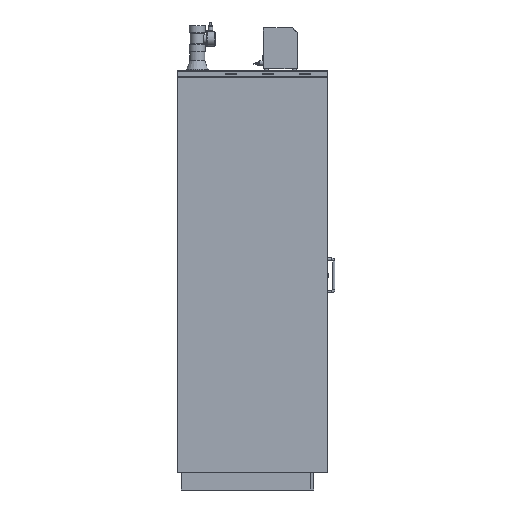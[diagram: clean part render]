
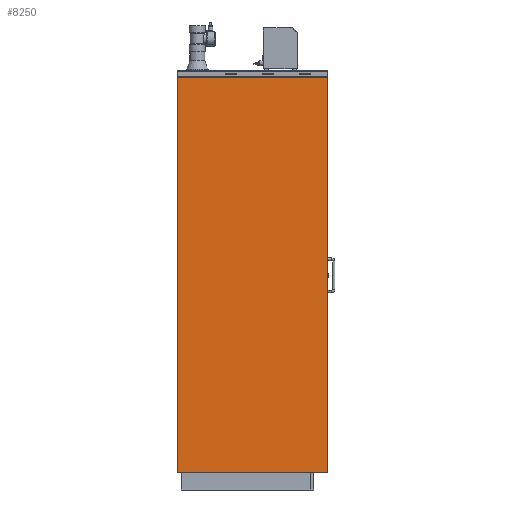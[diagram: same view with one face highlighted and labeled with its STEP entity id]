
A CAD part, left-side view. The second image highlights one B-rep face of the part: STEP entity #8250.
In plain terms, the highlighted planar face has unit normal (-1, 0, 0).
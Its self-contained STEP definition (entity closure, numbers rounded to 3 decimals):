
#1742=ORIENTED_EDGE('',*,*,#2649,.T.);
#1743=ORIENTED_EDGE('',*,*,#2650,.F.);
#1744=ORIENTED_EDGE('',*,*,#2651,.F.);
#1745=ORIENTED_EDGE('',*,*,#2601,.F.);
#1746=ORIENTED_EDGE('',*,*,#2632,.F.);
#1747=ORIENTED_EDGE('',*,*,#2652,.F.);
#1748=ORIENTED_EDGE('',*,*,#2637,.F.);
#1749=ORIENTED_EDGE('',*,*,#2593,.T.);
#2593=EDGE_CURVE('',#3164,#3165,#3767,.T.);
#2601=EDGE_CURVE('',#3172,#3173,#3775,.T.);
#2632=EDGE_CURVE('',#3197,#3172,#3804,.T.);
#2637=EDGE_CURVE('',#3164,#3200,#3809,.T.);
#2649=EDGE_CURVE('',#3165,#3206,#3821,.T.);
#2650=EDGE_CURVE('',#3207,#3206,#3822,.T.);
#2651=EDGE_CURVE('',#3173,#3207,#3823,.T.);
#2652=EDGE_CURVE('',#3200,#3197,#3824,.T.);
#3164=VERTEX_POINT('',#11971);
#3165=VERTEX_POINT('',#11972);
#3172=VERTEX_POINT('',#11988);
#3173=VERTEX_POINT('',#11989);
#3197=VERTEX_POINT('',#12055);
#3200=VERTEX_POINT('',#12062);
#3206=VERTEX_POINT('',#12087);
#3207=VERTEX_POINT('',#12091);
#3767=LINE('',#11970,#4384);
#3775=LINE('',#11987,#4392);
#3804=LINE('',#12054,#4421);
#3809=LINE('',#12064,#4426);
#3821=LINE('',#12088,#4438);
#3822=LINE('',#12090,#4439);
#3823=LINE('',#12092,#4440);
#3824=LINE('',#12093,#4441);
#4384=VECTOR('',#10206,1000.);
#4392=VECTOR('',#10216,1000.);
#4421=VECTOR('',#10271,1000.);
#4426=VECTOR('',#10278,1000.);
#4438=VECTOR('',#10302,1000.);
#4439=VECTOR('',#10305,1000.);
#4440=VECTOR('',#10306,1000.);
#4441=VECTOR('',#10307,1000.);
#4866=EDGE_LOOP('',(#1742,#1743,#1744,#1745,#1746,#1747,#1748,#1749));
#5329=FACE_BOUND('',#4866,.T.);
#5596=PLANE('',#8747);
#8250=ADVANCED_FACE('',(#5329),#5596,.F.);
#8747=AXIS2_PLACEMENT_3D('',#12089,#10303,#10304);
#10206=DIRECTION('',(0.,1.,0.));
#10216=DIRECTION('',(0.,1.,0.));
#10271=DIRECTION('',(0.,0.,-1.));
#10278=DIRECTION('',(0.,0.,1.));
#10302=DIRECTION('',(0.,0.,1.));
#10303=DIRECTION('',(1.,0.,0.));
#10304=DIRECTION('',(0.,0.,-1.));
#10305=DIRECTION('',(0.,-1.,0.));
#10306=DIRECTION('',(0.,0.,1.));
#10307=DIRECTION('',(0.,-1.,0.));
#11970=CARTESIAN_POINT('',(150.,564.,1954.5));
#11971=CARTESIAN_POINT('',(150.,564.,1954.5));
#11972=CARTESIAN_POINT('',(150.,583.,1954.5));
#11987=CARTESIAN_POINT('',(150.,0.,0.));
#11988=CARTESIAN_POINT('',(150.,-135.,0.));
#11989=CARTESIAN_POINT('',(150.,612.,0.));
#12054=CARTESIAN_POINT('',(150.,-135.,1956.));
#12055=CARTESIAN_POINT('',(150.,-135.,1956.));
#12062=CARTESIAN_POINT('',(150.,564.,1956.));
#12064=CARTESIAN_POINT('',(150.,564.,1954.5));
#12087=CARTESIAN_POINT('',(150.,583.,1956.));
#12088=CARTESIAN_POINT('',(150.,583.,1954.5));
#12089=CARTESIAN_POINT('',(150.,0.,0.));
#12090=CARTESIAN_POINT('',(150.,612.,1956.));
#12091=CARTESIAN_POINT('',(150.,612.,1956.));
#12092=CARTESIAN_POINT('',(150.,612.,0.));
#12093=CARTESIAN_POINT('',(150.,612.,1956.));
